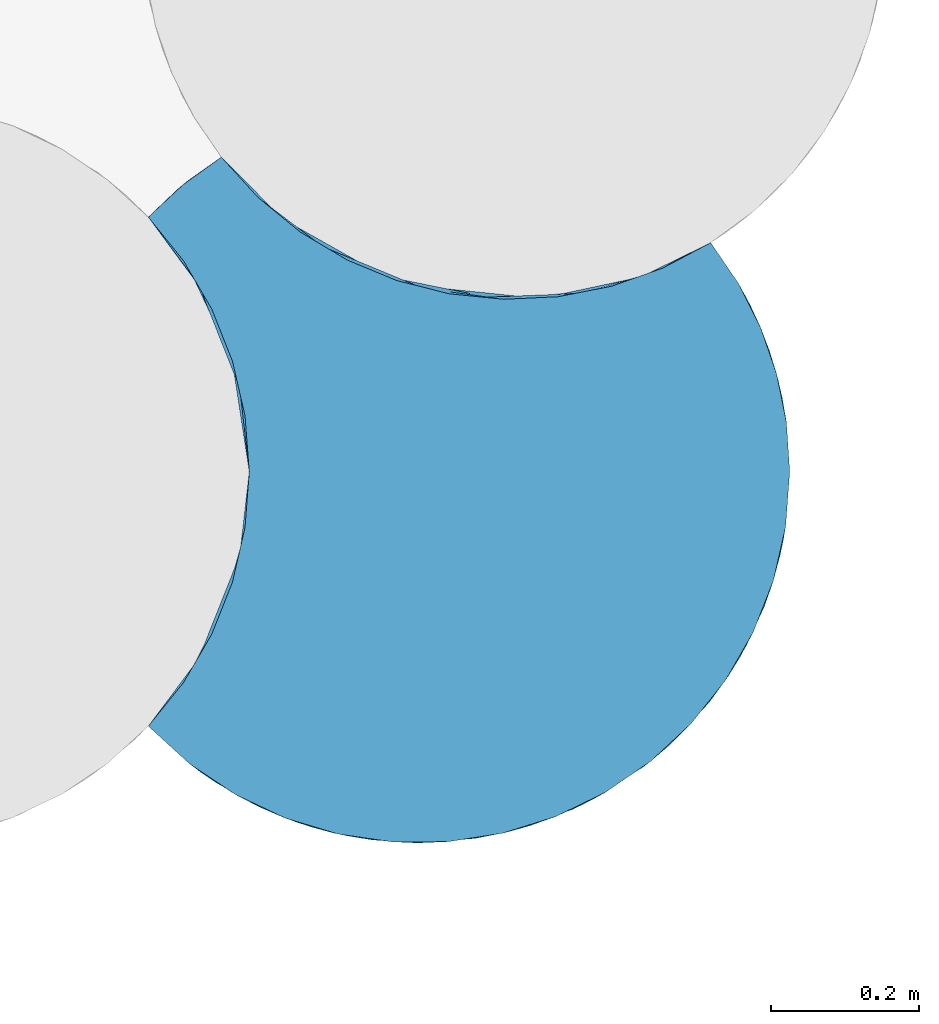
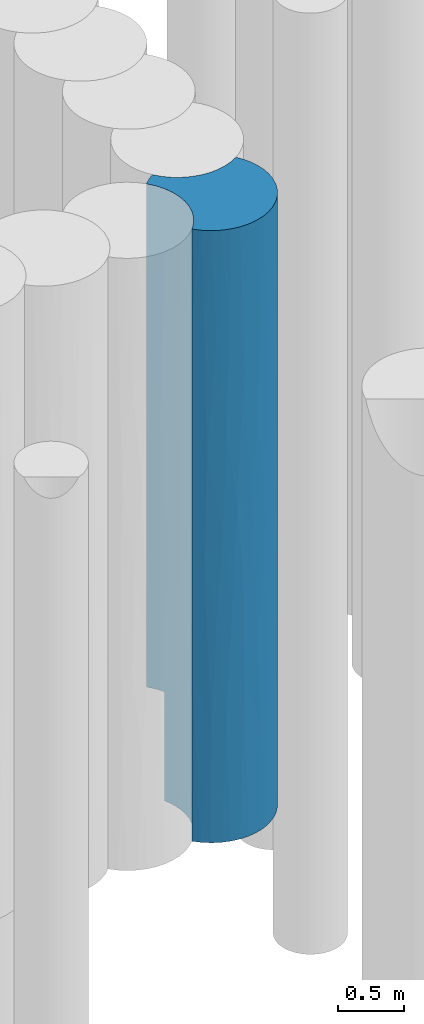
# One storey, part 52 of 104: 1 pile.
"""IFC2X3 building model written with IfcOpenShell, lengths in millimetres."""

from ifc_helpers import new_model, entity, si_unit, converted_unit, derived_unit, direction, frame, origin, place, context, subcontext, project, spatial, faceted_brep, source, transform, mapped, material, element, save


model = new_model("IFC2X3")

# Units and contexts
model_context = context("Model", 3, precision=0.01, world=origin(), true_north=direction((6.12303176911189e-17, 1.0)))
body_context = subcontext(model_context, "Body", "Model", "MODEL_VIEW")
ifc_project = project(units=[si_unit("LENGTHUNIT", "METRE", prefix="MILLI"), si_unit("AREAUNIT", "SQUARE_METRE", prefix="MILLI"), si_unit("VOLUMEUNIT", "CUBIC_METRE"), converted_unit("PLANEANGLEUNIT", "DEGREE", entity("IfcRatioMeasure", 0.0174532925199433), si_unit("PLANEANGLEUNIT", "RADIAN"), dimensions=[0, 0, 0, 0, 0, 0, 0]), si_unit("MASSUNIT", "GRAM", prefix="KILO"), derived_unit("MASSDENSITYUNIT", [(si_unit("MASSUNIT", "GRAM", prefix="KILO"), 1), (si_unit("LENGTHUNIT", "METRE"), -3)]), derived_unit("MOMENTOFINERTIAUNIT", [(si_unit("LENGTHUNIT", "METRE"), 4)]), si_unit("TIMEUNIT", "SECOND"), si_unit("FREQUENCYUNIT", "HERTZ"), si_unit("THERMODYNAMICTEMPERATUREUNIT", "DEGREE_CELSIUS"), derived_unit("THERMALTRANSMITTANCEUNIT", [(si_unit("MASSUNIT", "GRAM", prefix="KILO"), 1), (si_unit("THERMODYNAMICTEMPERATUREUNIT", "KELVIN"), -1), (si_unit("TIMEUNIT", "SECOND"), -3)]), derived_unit("VOLUMETRICFLOWRATEUNIT", [(si_unit("LENGTHUNIT", "METRE"), 3), (si_unit("TIMEUNIT", "SECOND"), -1)]), si_unit("ELECTRICCURRENTUNIT", "AMPERE"), si_unit("ELECTRICVOLTAGEUNIT", "VOLT"), si_unit("POWERUNIT", "WATT"), si_unit("FORCEUNIT", "NEWTON", prefix="KILO"), si_unit("ILLUMINANCEUNIT", "LUX"), si_unit("LUMINOUSFLUXUNIT", "LUMEN"), si_unit("LUMINOUSINTENSITYUNIT", "CANDELA"), derived_unit("USERDEFINED", [(si_unit("MASSUNIT", "GRAM", prefix="KILO"), -1), (si_unit("LENGTHUNIT", "METRE"), -2), (si_unit("TIMEUNIT", "SECOND"), 3), (si_unit("LUMINOUSFLUXUNIT", "LUMEN"), 1)]), derived_unit("LINEARVELOCITYUNIT", [(si_unit("LENGTHUNIT", "METRE"), 1), (si_unit("TIMEUNIT", "SECOND"), -1)]), si_unit("PRESSUREUNIT", "PASCAL"), derived_unit("USERDEFINED", [(si_unit("LENGTHUNIT", "METRE"), -2), (si_unit("MASSUNIT", "GRAM", prefix="KILO"), 1), (si_unit("TIMEUNIT", "SECOND"), -2)]), derived_unit("LINEARFORCEUNIT", [(si_unit("MASSUNIT", "GRAM", prefix="KILO"), 1), (si_unit("LENGTHUNIT", "METRE"), 1), (si_unit("TIMEUNIT", "SECOND"), -2), (si_unit("LENGTHUNIT", "METRE"), -1)]), derived_unit("PLANARFORCEUNIT", [(si_unit("MASSUNIT", "GRAM", prefix="KILO"), 1), (si_unit("LENGTHUNIT", "METRE"), 1), (si_unit("TIMEUNIT", "SECOND"), -2), (si_unit("LENGTHUNIT", "METRE"), -2)])], contexts=[model_context])

# Site, building, storey
site_placement = place(None, origin())
site = spatial("IfcSite", under=ifc_project, at=site_placement, Name="Theater aan de Parade", CompositionType="ELEMENT")
building_placement = place(site_placement, origin())
building = spatial("IfcBuilding", under=site, at=building_placement, Name="Theater aan de Parade", CompositionType="ELEMENT")
storey_placement = place(building_placement, frame((0.0, 0.0, -5520.0)))
storey = spatial("IfcBuildingStorey", under=building, at=storey_placement, Name="-2 kelder", CompositionType="ELEMENT", Elevation=-5520.0)

# Pile
ifc_material = material(Name="00_PBT_MAT_grout")
shared_shape = source(origin(), body_context, "Body", "Brep", [
    faceted_brep([(759.180625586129, 808.748663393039, 0.0), (796.55869231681, 753.897406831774, 0.0), (826.355325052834, 694.546400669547, 0.0), (848.024557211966, 631.765948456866, 0.0), (861.182218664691, 566.665149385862, 0.0), (865.595272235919, 500.381074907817, 0.0), (860.04388009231, 426.080508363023, 0.0), (843.514314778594, 353.434183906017, 0.0), (816.373927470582, 284.051224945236, 0.0), (779.226149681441, 219.472731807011, 0.0), (732.896207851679, 161.131870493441, 0.0), (678.412967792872, 110.323272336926, 0.0), (616.986099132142, 68.1743510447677, 0.0), (549.979239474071, 35.6203271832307, 0.0), (478.879752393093, 13.3835117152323, 0.0), (405.265748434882, 1.95730609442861, 0.0), (330.771098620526, 1.5952722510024, 0.0), (257.049214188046, 12.3055138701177, 0.0), (185.736393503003, 33.8504931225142, 0.0), (118.415546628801, 65.7522870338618, 0.0), (56.5810997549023, 107.303167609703, 0.0), (1.5952722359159, 157.592510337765, 0.0), (49.0404771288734, 216.281016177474, 0.0), (87.1123213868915, 281.441762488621, 0.0), (114.943469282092, 351.590286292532, 0.0), (131.899884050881, 425.12849529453, 0.0), (137.595272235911, 500.381074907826, 0.0), (134.377353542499, 557.016432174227, 0.0), (124.780071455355, 612.857612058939, 0.0), (108.920050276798, 667.273116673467, 0.0), (86.9917285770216, 719.567810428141, 0.0), (356.737142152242, 719.567810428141, 0.0), (356.737142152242, 751.475832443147, 0.0), (424.955055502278, 737.11496396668, 0.0), (494.507312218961, 732.381906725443, 0.0), (564.041839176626, 737.368669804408, 0.0), (632.206907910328, 751.978312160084, 0.0), (697.677411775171, 775.926827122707, 0.0), (838.233482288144, 663.516363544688, 1496.92611196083), (850.596816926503, 621.927369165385, 2577.53700638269), (865.595272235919, 500.381074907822, 1561.53772534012), (865.59527223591, 500.381074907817, 1405.0), (759.180625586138, 808.748663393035, 1561.53767873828), (865.595272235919, 500.381074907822, 5620.0), (855.685775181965, 599.433076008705, 4689.37486299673), (861.182036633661, 566.666510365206, 5620.0), (865.595272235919, 500.381074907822, 4215.0), (848.025555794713, 631.762281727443, 5620.0), (812.448668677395, 724.706824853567, 4689.38038704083), (826.358766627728, 694.538233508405, 5620.0), (838.235547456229, 663.510380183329, 3923.62571140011), (759.180625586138, 808.748663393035, 3123.07535747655), (759.180625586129, 808.748663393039, 4058.46232126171), (796.565920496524, 753.885118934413, 5620.0), (806.530713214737, 736.126566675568, 2342.30656488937), (759.180625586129, 808.748663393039, 5620.0), (865.595272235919, 500.381074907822, 2810.0), (220.990990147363, 21.7480196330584, 1093.76109375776), (117.71333951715, 66.1523938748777, 1036.71155509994), (857.975150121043, 413.420992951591, 1853.71025759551), (842.215469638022, 349.274531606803, 2810.0), (1.5952722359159, 157.592510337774, 4839.22723664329), (72.09663756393, 95.5866191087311, 4772.01873200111), (56.5811000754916, 107.303167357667, 5620.0), (268.449809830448, 9.90909901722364, 2143.91490683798), (368.025175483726, 0.386979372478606, 1467.64610856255), (257.04921455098, 12.3055137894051, 5620.0), (185.736393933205, 33.8504929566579, 5620.0), (248.037257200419, 14.3974197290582, 4677.79004302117), (584.089800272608, 50.6476636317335, 3901.76735861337), (571.711453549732, 44.8417025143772, 2810.0), (699.489329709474, 128.205365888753, 3323.94943326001), (514.844209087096, 23.1759252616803, 961.569314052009), (799.004496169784, 251.069132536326, 4658.3971950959), (782.767470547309, 224.759310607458, 3712.5259390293), (831.238217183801, 318.236495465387, 3901.72700450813), (860.043880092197, 426.080508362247, 5620.0), (853.134074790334, 389.449041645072, 4658.3948783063), (602.046302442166, 59.8235754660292, 861.910505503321), (602.046302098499, 59.8235752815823, 4758.08949533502), (514.844208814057, 23.1759251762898, 4658.43068709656), (1.5952722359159, 157.592510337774, 5620.0), (1.5952722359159, 157.592510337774, 1561.52154057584), (151.48099594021, 48.545843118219, 4598.71695064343), (118.415547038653, 65.7522868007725, 5620.0), (72.86647306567, 95.0295606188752, 2592.78600509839), (199.731263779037, 28.6935398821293, 2836.5264502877), (92.2865926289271, 81.6898215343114, 3590.76885379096), (220.990990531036, 21.748019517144, 3767.49036927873), (799.004496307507, 251.069132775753, 961.602804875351), (782.767470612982, 224.759310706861, 1907.47406074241), (706.602187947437, 134.711437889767, 1371.3934777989), (330.771098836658, 1.5952722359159, 5620.0), (857.975150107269, 413.420992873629, 3766.28974125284), (405.265748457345, 1.95730609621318, 5620.0), (368.025175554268, 0.386979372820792, 4218.61302611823), (1.5952722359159, 157.592510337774, 4058.4544732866), (1.5952722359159, 157.592510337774, 3123.06706728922), (485.059814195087, 14.8625652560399, 1907.42779919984), (584.089800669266, 50.6476638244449, 1718.23264327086), (485.059813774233, 14.8625651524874, 3712.57220228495), (303.434277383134, 4.26011111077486, 3108.15706973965), (843.514314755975, 353.434183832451, 5620.0), (853.134074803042, 389.449041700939, 961.605121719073), (151.480995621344, 48.545843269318, 2012.58067775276), (831.238217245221, 318.23649562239, 1718.27299621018), (442.285846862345, 6.29752350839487, 2810.0), (549.979239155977, 35.6203270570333, 5620.0), (478.879752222, 13.3835116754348, 5620.0), (616.98609874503, 68.174350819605, 5620.0), (669.097000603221, 103.031479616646, 2468.80430794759), (678.412967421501, 110.323272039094, 5620.0), (706.6021875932, 134.711437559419, 4248.60652296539), (732.896207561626, 161.131870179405, 5620.0), (816.373927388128, 284.051224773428, 5620.0), (779.226149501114, 219.472731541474, 5620.0), (806.977785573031, 265.473695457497, 2978.66400310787), (757.149276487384, 189.438215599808, 2810.0), (358.732531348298, 0.428174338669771, 2398.9050748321), (1.5952722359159, 157.592510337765, 2496.92458741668), (694.440830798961, 774.493466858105, 5620.0), (625.391163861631, 750.063914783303, 5620.0), (553.513336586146, 735.984232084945, 5620.0), (480.349749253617, 732.556549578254, 5620.0), (407.470392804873, 739.854420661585, 5620.0), (336.439158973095, 757.721242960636, 5620.0), (268.780281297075, 785.77361880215, 5620.0), (205.945627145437, 823.409582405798, 5620.0), (149.283542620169, 869.821517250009, 5620.0), (100.009918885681, 924.013486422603, 5620.0), (48.2429051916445, 886.75844889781, 5620.0), (1.5952722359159, 843.169639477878, 5620.0), (49.0404771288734, 784.481133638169, 5620.0), (87.1123213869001, 719.320387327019, 5620.0), (114.943469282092, 649.171863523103, 5620.0), (131.899884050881, 575.633654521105, 5620.0), (137.595272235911, 500.381074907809, 5620.0), (131.899884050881, 425.128495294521, 5620.0), (114.943469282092, 351.590286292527, 5620.0), (87.1123213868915, 281.441762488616, 5620.0), (49.0404771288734, 216.281016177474, 5620.0), (137.595272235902, 500.381074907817, 1561.53772533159), (137.595272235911, 500.381074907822, 2810.0), (118.129955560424, 638.534678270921, 2185.76884068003), (124.811099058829, 612.723133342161, 4657.58649590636), (137.595272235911, 500.381074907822, 4215.0), (125.973811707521, 607.555708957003, 1095.37767137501), (69.3075384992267, 752.620086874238, 4657.58649237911), (1.5952722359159, 843.169639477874, 4839.22992420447), (1.5952722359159, 843.169639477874, 4465.0), (1.5952722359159, 843.169639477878, 4123.07477142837), (102.353272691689, 684.771966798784, 3905.98762480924), (57.7018130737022, 771.509262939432, 3773.1375567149), (86.9917285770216, 719.567810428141, 1000.0), (129.79994300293, 588.327433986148, 3749.95709791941), (48.9622639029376, 784.594371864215, 1000.0), (1.5952722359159, 843.169639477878, 2561.53800190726), (1.5952722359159, 843.169639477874, 2155.0), (1.5952722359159, 843.169639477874, 1780.76750475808), (1.5952722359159, 843.169639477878, 1000.0), (114.521440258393, 650.519112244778, 3074.47446079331), (73.2384738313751, 745.768525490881, 2499.01518659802), (137.595272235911, 500.381074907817, 3123.07541190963), (137.595272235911, 500.381074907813, 4058.46229404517), (1.5952722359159, 843.169639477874, 3887.49871448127), (1.5952722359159, 843.169639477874, 3310.0), (1.5952722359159, 843.16963947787, 2732.50128551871), (124.811099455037, 388.039018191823, 4607.47022373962), (69.3075392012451, 248.142064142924, 4607.47022365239), (56.4533644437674, 227.328152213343, 2029.23114695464), (102.353273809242, 315.990185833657, 1827.31664125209), (124.811099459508, 388.039018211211, 1012.52977635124), (69.3075392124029, 248.142064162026, 1012.52977643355), (129.72280222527, 412.004074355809, 3590.76885293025), (102.353273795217, 315.990185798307, 3792.68335898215), (128.169789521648, 403.754769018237, 2509.81800557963), (60.97830622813, 234.398356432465, 3110.18199494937), (103.558997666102, 319.058691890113, 2894.95173457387), (48.2429599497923, 886.758493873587, 1000.0), (100.009918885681, 924.013486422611, 1000.0), (153.153025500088, 866.185667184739, 1000.0), (214.695858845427, 817.392982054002, 1000.0), (283.119973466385, 778.839292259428, 1000.0), (356.737142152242, 751.475832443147, 1000.0), (356.737142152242, 719.567810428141, 1000.0), (182.964938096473, 840.579089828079, 2052.36160186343), (319.390457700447, 763.709886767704, 2403.71072964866), (100.009918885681, 924.013486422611, 4058.46229248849), (169.091029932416, 851.990490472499, 4136.13797094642), (589.710409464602, 741.706151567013, 4076.13410949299), (678.062782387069, 767.653479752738, 4572.95074168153), (677.019767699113, 767.240822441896, 3590.76885311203), (665.360049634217, 762.810141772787, 1041.78183805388), (529.361592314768, 733.661945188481, 1041.78183816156), (472.083598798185, 732.844041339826, 2098.66998176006), (236.672876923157, 803.439490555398, 4649.68970805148), (371.627177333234, 747.485432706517, 4363.36434116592), (236.6728769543, 803.439490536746, 3622.58623411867), (100.009918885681, 924.013486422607, 4123.07470828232), (100.009918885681, 924.013486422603, 4871.53735414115), (443.776260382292, 734.869199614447, 3250.34379846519), (480.261544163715, 732.558894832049, 4214.04492294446), (598.379304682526, 743.484044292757, 1923.29322935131), (334.785737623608, 758.271876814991, 3409.55546978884), (582.510765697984, 740.350552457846, 2995.63535474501), (159.128161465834, 860.720272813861, 3127.38761941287), (677.511714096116, 767.435118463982, 2598.72282375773), (100.009918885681, 924.013486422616, 2496.92458497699), (100.009918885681, 924.013486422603, 2561.53735414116), (100.009918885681, 924.013486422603, 3342.30706848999), (100.009918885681, 924.013486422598, 1780.76763979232), (46.2246714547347, 885.091900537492, 2549.25179323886), (48.2179553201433, 886.737954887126, 1967.88442636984), (55.4846179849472, 892.594514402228, 1483.95798292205), (47.1666565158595, 885.871952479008, 3598.74999905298), (49.3966379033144, 887.703193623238, 3021.2499987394), (49.0034170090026, 887.38184648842, 4652.11557189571), (41.1580825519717, 880.828850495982, 5135.55726272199), (46.3076738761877, 885.160790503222, 4073.27886097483)], [[[0, 1, 2, 3, 4, 5, 6, 7, 8, 9, 10, 11, 12, 13, 14, 15, 16, 17, 18, 19, 20, 21, 22, 23, 24, 25, 26, 27, 28, 29, 30, 31, 32, 33, 34, 35, 36, 37]], [[38, 39, 40]], [[4, 40, 41, 5]], [[1, 0, 42]], [[38, 4, 3]], [[3, 2, 38]], [[43, 44, 45]], [[46, 44, 43]], [[1, 42, 38]], [[44, 47, 45]], [[48, 49, 47]], [[2, 1, 38]], [[4, 38, 40]], [[50, 51, 52]], [[48, 53, 49]], [[48, 44, 50]], [[48, 47, 44]], [[54, 38, 42]], [[54, 39, 38]], [[55, 53, 48]], [[51, 54, 42]], [[46, 50, 44]], [[56, 50, 46]], [[50, 52, 48]], [[55, 48, 52]], [[51, 50, 54]], [[39, 56, 40]], [[54, 50, 39]], [[50, 56, 39]], [[57, 58, 18]], [[59, 56, 60]], [[58, 19, 18]], [[61, 62, 63]], [[20, 19, 58]], [[64, 57, 65]], [[66, 67, 68]], [[69, 70, 71]], [[15, 14, 72]], [[16, 57, 17]], [[15, 65, 16]], [[73, 74, 75]], [[76, 77, 43]], [[13, 72, 14]], [[57, 16, 65]], [[78, 13, 12]], [[79, 80, 69]], [[63, 81, 61]], [[21, 20, 82]], [[83, 67, 84]], [[82, 58, 85]], [[77, 73, 75]], [[85, 86, 87]], [[83, 88, 68]], [[62, 84, 63]], [[67, 83, 68]], [[89, 90, 91]], [[66, 68, 92]], [[93, 46, 77]], [[80, 94, 95]], [[7, 89, 8]], [[72, 13, 78]], [[87, 96, 97]], [[98, 65, 72]], [[99, 72, 78]], [[80, 100, 69]], [[8, 89, 9]], [[101, 88, 86]], [[77, 102, 73]], [[56, 93, 60]], [[103, 7, 6]], [[58, 57, 104]], [[105, 89, 103]], [[95, 101, 106]], [[62, 87, 83]], [[89, 7, 103]], [[80, 107, 108]], [[91, 11, 10]], [[78, 11, 91]], [[80, 79, 107]], [[79, 109, 107]], [[95, 94, 92]], [[110, 70, 99]], [[109, 79, 111]], [[112, 73, 113]], [[114, 115, 73]], [[102, 77, 76]], [[105, 116, 90]], [[114, 73, 102]], [[112, 113, 111]], [[57, 18, 17]], [[99, 91, 110]], [[41, 103, 5]], [[43, 77, 46]], [[10, 9, 89]], [[110, 91, 117]], [[64, 104, 57]], [[98, 72, 99]], [[15, 72, 65]], [[94, 80, 108]], [[100, 95, 106]], [[113, 73, 115]], [[112, 71, 74]], [[90, 89, 105]], [[10, 89, 91]], [[93, 77, 75]], [[5, 103, 6]], [[59, 103, 41]], [[85, 87, 97]], [[88, 83, 87]], [[101, 118, 106]], [[86, 104, 64]], [[70, 98, 99]], [[98, 106, 118]], [[95, 100, 80]], [[70, 100, 106]], [[112, 74, 73]], [[116, 74, 117]], [[116, 105, 60]], [[91, 90, 117]], [[85, 58, 104]], [[20, 58, 82]], [[60, 93, 75]], [[56, 46, 93]], [[59, 41, 40, 56]], [[75, 74, 116]], [[105, 103, 59]], [[60, 105, 59]], [[88, 95, 68]], [[92, 68, 95]], [[85, 97, 119, 82]], [[86, 85, 104]], [[90, 116, 117]], [[75, 116, 60]], [[11, 78, 12]], [[91, 99, 78]], [[69, 112, 79]], [[111, 79, 112]], [[71, 110, 117]], [[110, 71, 70]], [[100, 70, 69]], [[98, 70, 106]], [[101, 86, 64]], [[87, 86, 88]], [[101, 64, 118]], [[95, 88, 101]], [[64, 65, 118]], [[98, 118, 65]], [[96, 87, 62]], [[62, 61, 96]], [[84, 62, 83]], [[74, 71, 117]], [[69, 71, 112]], [[120, 121, 122, 123, 124, 125, 126, 127, 128, 129, 130, 131, 132, 133, 134, 135, 136, 137, 138, 139, 140, 81, 63, 84, 67, 66, 92, 94, 108, 107, 109, 111, 113, 115, 114, 102, 76, 43, 45, 47, 49, 53, 55]], [[141, 142, 143]], [[144, 134, 133]], [[136, 144, 145]], [[26, 146, 27]], [[147, 131, 148, 149, 150]], [[146, 28, 27]], [[146, 29, 28]], [[135, 134, 144]], [[144, 147, 151]], [[147, 150, 152]], [[146, 153, 29]], [[154, 144, 151]], [[155, 156, 157, 158, 159]], [[151, 160, 154]], [[131, 147, 132]], [[141, 143, 146]], [[132, 147, 133]], [[161, 156, 155]], [[145, 144, 154]], [[151, 147, 152]], [[133, 147, 144]], [[161, 160, 152]], [[161, 155, 153]], [[30, 29, 153]], [[154, 142, 162, 163, 145]], [[135, 144, 136]], [[143, 142, 160]], [[154, 160, 142]], [[143, 160, 161]], [[143, 161, 153]], [[152, 150, 164, 165, 166, 156]], [[151, 152, 160]], [[161, 152, 156]], [[153, 146, 143]], [[26, 141, 146]], [[138, 167, 168, 139]], [[167, 137, 136]], [[169, 82, 119]], [[170, 171, 172]], [[23, 22, 172]], [[139, 168, 140]], [[163, 162, 173]], [[26, 171, 141]], [[167, 136, 145, 163]], [[174, 168, 167]], [[141, 171, 175]], [[138, 137, 167]], [[175, 162, 142, 141]], [[23, 172, 171, 24]], [[24, 171, 25]], [[176, 169, 119]], [[168, 96, 61, 81]], [[82, 172, 21]], [[25, 171, 26]], [[175, 173, 162]], [[176, 119, 97, 96]], [[21, 172, 22]], [[140, 168, 81]], [[96, 168, 176]], [[170, 172, 169]], [[174, 167, 173]], [[82, 169, 172]], [[170, 177, 175]], [[170, 169, 177]], [[168, 174, 176]], [[163, 173, 167]], [[177, 176, 174]], [[174, 173, 177]], [[171, 170, 175]], [[169, 176, 177]], [[175, 177, 173]], [[155, 159, 178, 179, 180, 181, 182, 183, 184, 153]], [[184, 31, 30, 153]], [[182, 185, 186]], [[187, 128, 188]], [[189, 190, 191]], [[36, 192, 37]], [[33, 32, 183]], [[193, 183, 194]], [[122, 121, 189]], [[195, 125, 196]], [[193, 35, 34]], [[197, 195, 196]], [[180, 185, 181]], [[186, 185, 197]], [[185, 180, 179]], [[188, 195, 197]], [[52, 51, 191]], [[0, 192, 42]], [[128, 187, 198, 199, 129]], [[200, 196, 201]], [[126, 195, 127]], [[128, 127, 195]], [[186, 183, 182]], [[37, 192, 0]], [[183, 193, 33]], [[36, 35, 193, 192]], [[192, 193, 202]], [[197, 203, 186]], [[190, 120, 55]], [[193, 194, 202]], [[194, 204, 202]], [[190, 52, 191]], [[124, 196, 125]], [[196, 200, 203]], [[126, 125, 195]], [[196, 124, 201]], [[124, 123, 201]], [[197, 185, 205]], [[51, 42, 206]], [[123, 122, 201]], [[205, 188, 197]], [[190, 189, 121]], [[193, 34, 33]], [[42, 192, 206]], [[191, 51, 206]], [[194, 186, 200]], [[186, 194, 183]], [[189, 191, 204]], [[206, 204, 191]], [[189, 204, 201]], [[200, 204, 194]], [[52, 190, 55]], [[120, 190, 121]], [[206, 202, 204]], [[192, 202, 206]], [[195, 188, 128]], [[205, 207, 208, 209, 187]], [[188, 205, 187]], [[185, 179, 210, 207]], [[182, 181, 185]], [[205, 185, 207]], [[200, 201, 204]], [[122, 189, 201]], [[186, 203, 200]], [[203, 197, 196]], [[184, 183, 32, 31]], [[211, 157, 156, 166]], [[158, 212, 213]], [[214, 215, 165]], [[212, 208, 207, 210]], [[158, 157, 212]], [[216, 217, 199]], [[198, 214, 218]], [[148, 217, 216]], [[159, 158, 213]], [[130, 217, 131]], [[217, 129, 199]], [[178, 213, 179]], [[149, 148, 216]], [[199, 198, 216]], [[214, 198, 187, 209]], [[166, 215, 211]], [[213, 212, 210]], [[164, 214, 165]], [[179, 213, 210]], [[166, 165, 215]], [[216, 218, 149]], [[213, 178, 159]], [[131, 217, 148]], [[217, 130, 129]], [[209, 208, 215]], [[211, 215, 208]], [[214, 164, 218]], [[215, 214, 209]], [[218, 164, 150, 149]], [[216, 198, 218]], [[208, 212, 211]], [[157, 211, 212]]]),
])
pile_placement = place(storey_placement, frame((41768.2628578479, 37980.4321895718, -3840.0)))
element("IfcPile", 1, at=pile_placement, inside=storey, material=ifc_material, Name="17_PBT_SFO_grondkering_rond:Ø1000 (grondkering)", ObjectType="17_PBT_SFO_grondkering_rond:Ø1000 (grondkering)", PredefinedType="NOTDEFINED", context=body_context, shape_type="MappedRepresentation", body=[
    mapped(shared_shape, transform((0.0, 0.0, 0.0), scale=1.0)),
])

save(model, "model.ifc")
